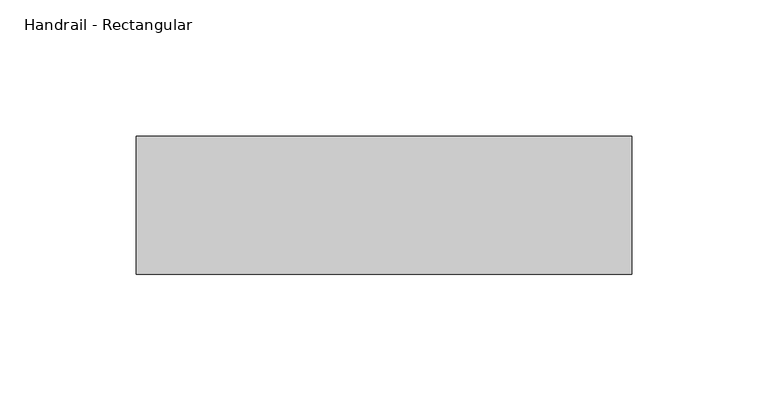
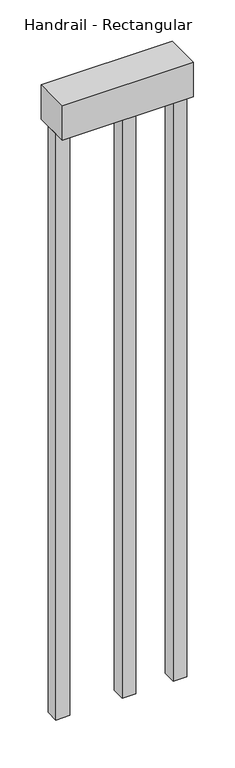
"""IFC4 building model written with IfcOpenShell, lengths in millimetres: railing geometry, Handrail - Rectangular."""

from ifc_helpers import new_model, si_unit, frame, origin, place, context, project, spatial, polyline, outline, extrude, source, transform, mapped, element, save


def handrail_rectangular_fb009ace(model_context):
    return source(origin(), model_context, "Body", "SweptSolid", [
        extrude(outline(polyline([(-11961.6353906, 4050.8975872), (-11961.6353906, 4101.6975872), (-11779.3058351, 4101.6975872), (-11779.3058351, 4050.8975872), (-11961.6353906, 4050.8975872)])), frame((0.0, 0.0, 4521.2), z_axis=(0.0, 0.0, 1.0), x_axis=(1.0, 0.0, 0.0)), (0.0, 0.0, 1.0), 50.8),
        extrude(outline(polyline([(-11869.5603906, 4066.7725872), (-11869.5603906, 4085.8225872), (-11850.5103906, 4085.8225872), (-11850.5103906, 4066.7725872), (-11869.5603906, 4066.7725872)])), frame((0.0, 0.0, 3657.6), z_axis=(0.0, 0.0, 1.0), x_axis=(1.0, 0.0, 0.0)), (0.0, 0.0, 1.0), 863.6),
        extrude(outline(polyline([(-11798.3558351, 4066.7725872), (-11798.3558351, 4085.8225872), (-11779.3058351, 4085.8225872), (-11779.3058351, 4066.7725872), (-11798.3558351, 4066.7725872)])), frame((0.0, 0.0, 3657.6), z_axis=(0.0, 0.0, 1.0), x_axis=(1.0, 0.0, 0.0)), (0.0, 0.0, 1.0), 863.6),
        extrude(outline(polyline([(-11961.6353906, 4066.7725872), (-11961.6353906, 4085.8225872), (-11942.5853906, 4085.8225872), (-11942.5853906, 4066.7725872), (-11961.6353906, 4066.7725872)])), frame((0.0, 0.0, 3657.6), z_axis=(0.0, 0.0, 1.0), x_axis=(1.0, 0.0, 0.0)), (0.0, 0.0, 1.0), 863.6),
    ])


if __name__ == "__main__":
    model = new_model("IFC4")
    model_context = context("Model", 3, world=origin())
    ifc_project = project(units=[si_unit("LENGTHUNIT", "METRE", prefix="MILLI")], contexts=[model_context])
    site = spatial("IfcSite", under=ifc_project)
    building = spatial("IfcBuilding", under=site)
    placement = place(None, origin())
    handrail_rectangular_shape = handrail_rectangular_fb009ace(model_context)
    element("IfcRailing", 1, ObjectType="Handrail - Rectangular", at=placement, inside=building, context=model_context, shape_type="MappedRepresentation", body=[
        mapped(handrail_rectangular_shape, transform((0.0, 0.0, 0.0), x_axis=(1.0, 0.0, 0.0), y_axis=(0.0, 1.0, 0.0), z_axis=(0.0, 0.0, 1.0))),
    ])
    save(model, "model.ifc")
